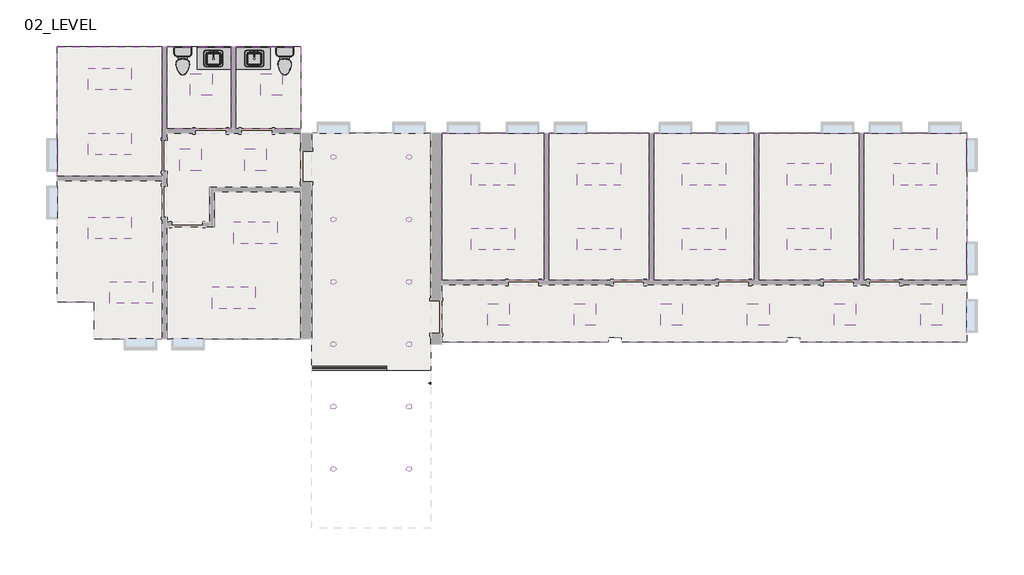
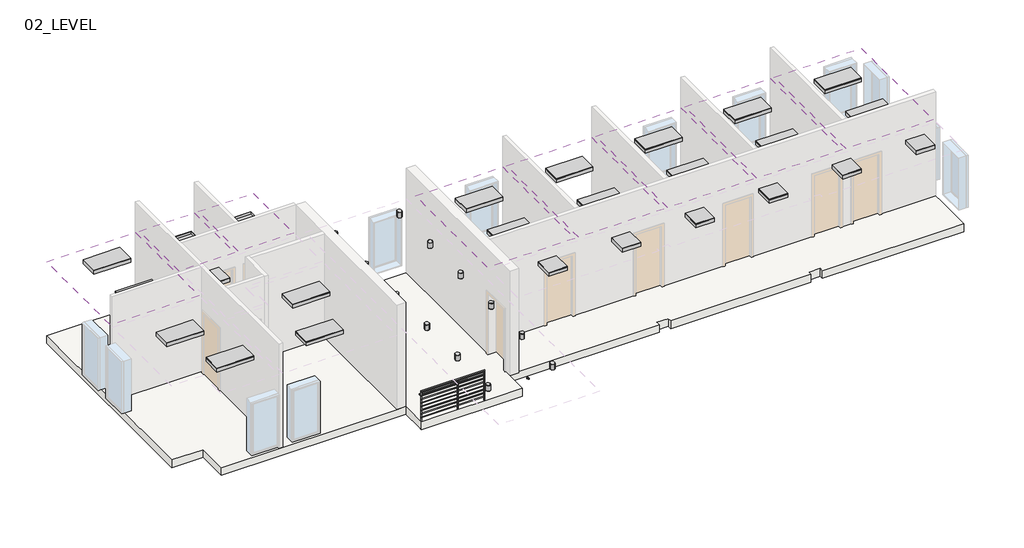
# One storey, part 2 of 2: 38 light fixtures, 8 coverings, 4 flow terminals, 2 furniture elements, 1 proxy, 1 railing, 1 slab.
"""IFC4 building model written with IfcOpenShell, lengths in millimetres."""

from ifc_helpers import new_model, si_unit, point, frame, frame_2d, origin, place, context, project, spatial, polyline, circle_curve, trimmed, segment, composite_curve, outline, extrude, faceted_brep, transform, mapped, element, save
from components import support_metal_circular_support_metal_circular_ae412147, flow_terminal_62a433f7, flow_terminal_4d0de4d3, toilet_domestic_3d_toilet_domestic_3d_f7549cf7, toilet_domestic_3d_toilet_domestic_3d_183bbd19, furniture_3190ce65, furniture_ed97e21d, ceiling_light_linear_box_2_x2_2_lamp_120v_60b3670b, light_fixture_e8692caf, troffer_light_2x2_parabolic_2_x2_2_lamp_120v_42650cf3, troffer_light_2x4_parabolic_2_x4_2_lamp_120v_ca384779

model = new_model("IFC4")

# Units and contexts
model_context = context("Model", 3, world=origin())
ifc_project = project(units=[si_unit("LENGTHUNIT", "METRE", prefix="MILLI")], contexts=[model_context])

# Site, building, storey
site = spatial("IfcSite", under=ifc_project)
building = spatial("IfcBuilding", under=site)
storey = spatial("IfcBuildingStorey", under=building, Name="02_LEVEL", Elevation=3657.6)

# Proxy
placement = place(None, origin())
support_metal_circular_support_metal_circular_shape = support_metal_circular_support_metal_circular_ae412147(model_context)
element("IfcBuildingElementProxy", 1, Name="Support - Metal - Circular : Support - Metal - Circular", ObjectType="Support - Metal - Circular : Support - Metal - Circular", at=placement, inside=storey, context=model_context, shape_type="MappedRepresentation", body=[
    mapped(support_metal_circular_support_metal_circular_shape, transform((31576.2316981, 24917.3669189, 4308.0093215), x_axis=(0.0, -1.0, 0.0), y_axis=(1.0, 0.0, 0.0), z_axis=(0.0, 0.0, 1.0))),
])

# Coverings
element("IfcCovering", 2, ObjectType="2' x 2' ACT System", at=placement, inside=storey, context=model_context, shape_type="SweptSolid", body=[
    extrude(outline(polyline([(21117.7816981, 34398.3332157), (24064.1816981, 34398.3332157), (24064.1816981, 30740.7332157), (21117.7816981, 30740.7332157), (21117.7816981, 34398.3332157)]), holes=[polyline([(23200.5816981, 33788.7332157), (21981.3816981, 33788.7332157), (21981.3816981, 33179.1332157), (23200.5816981, 33179.1332157), (23200.5816981, 33788.7332157)]), polyline([(23200.5816981, 31959.9332157), (21981.3816981, 31959.9332157), (21981.3816981, 31350.3332157), (23200.5816981, 31350.3332157), (23200.5816981, 31959.9332157)])]), frame((0.0, 0.0, 6248.4), z_axis=(0.0, 0.0, 1.0), x_axis=(1.0, 0.0, 0.0)), (0.0, 0.0, 1.0), 57.15),
])
element("IfcCovering", 3, ObjectType="2' x 2' ACT System", at=placement, inside=storey, context=model_context, shape_type="SweptSolid", body=[
    extrude(outline(polyline([(31938.1816981, 31959.9332157), (34831.2416981, 31959.9332157), (34831.2416981, 27819.7332157), (31938.1816981, 27819.7332157), (31938.1816981, 31959.9332157)]), holes=[polyline([(33994.3116981, 31109.0332157), (32775.1116981, 31109.0332157), (32775.1116981, 30499.4332157), (33994.3116981, 30499.4332157), (33994.3116981, 31109.0332157)]), polyline([(33994.3116981, 29280.2332157), (32775.1116981, 29280.2332157), (32775.1116981, 28670.6332157), (33994.3116981, 28670.6332157), (33994.3116981, 29280.2332157)])]), frame((0.0, 0.0, 6248.4), z_axis=(0.0, 0.0, 1.0), x_axis=(1.0, 0.0, 0.0)), (0.0, 0.0, 1.0), 57.15),
])
element("IfcCovering", 4, ObjectType="2' x 2' ACT System", at=placement, inside=storey, context=model_context, shape_type="SweptSolid", body=[
    extrude(outline(polyline([(34958.2416981, 27819.7332157), (34958.2416981, 31959.9332157), (37787.8016981, 31959.9332157), (37787.8016981, 27819.7332157), (34958.2416981, 27819.7332157)]), holes=[polyline([(36982.6216981, 31109.0332157), (35763.4216981, 31109.0332157), (35763.4216981, 30499.4332157), (36982.6216981, 30499.4332157), (36982.6216981, 31109.0332157)]), polyline([(36982.6216981, 29280.2332157), (35763.4216981, 29280.2332157), (35763.4216981, 28670.6332157), (36982.6216981, 28670.6332157), (36982.6216981, 29280.2332157)])]), frame((0.0, 0.0, 6248.4), z_axis=(0.0, 0.0, 1.0), x_axis=(1.0, 0.0, 0.0)), (0.0, 0.0, 1.0), 57.15),
])
element("IfcCovering", 5, ObjectType="2' x 2' ACT System", at=placement, inside=storey, context=model_context, shape_type="SweptSolid", body=[
    extrude(outline(polyline([(37914.8016981, 27819.7332157), (37914.8016981, 31959.9332157), (40744.3616981, 31959.9332157), (40744.3616981, 27819.7332157), (37914.8016981, 27819.7332157)]), holes=[polyline([(39939.1816981, 31109.0332157), (38719.9816981, 31109.0332157), (38719.9816981, 30499.4332157), (39939.1816981, 30499.4332157), (39939.1816981, 31109.0332157)]), polyline([(39939.1816981, 29280.2332157), (38719.9816981, 29280.2332157), (38719.9816981, 28670.6332157), (39939.1816981, 28670.6332157), (39939.1816981, 29280.2332157)])]), frame((0.0, 0.0, 6248.4), z_axis=(0.0, 0.0, 1.0), x_axis=(1.0, 0.0, 0.0)), (0.0, 0.0, 1.0), 57.15),
])
element("IfcCovering", 6, ObjectType="2' x 2' ACT System", at=placement, inside=storey, context=model_context, shape_type="SweptSolid", body=[
    extrude(outline(polyline([(40871.3616981, 27819.7332157), (40871.3616981, 31959.9332157), (43700.9216981, 31959.9332157), (43700.9216981, 27819.7332157), (40871.3616981, 27819.7332157)]), holes=[polyline([(42895.7416981, 31109.0332157), (41676.5416981, 31109.0332157), (41676.5416981, 30499.4332157), (42895.7416981, 30499.4332157), (42895.7416981, 31109.0332157)]), polyline([(42895.7416981, 29280.2332157), (41676.5416981, 29280.2332157), (41676.5416981, 28670.6332157), (42895.7416981, 28670.6332157), (42895.7416981, 29280.2332157)])]), frame((0.0, 0.0, 6248.4), z_axis=(0.0, 0.0, 1.0), x_axis=(1.0, 0.0, 0.0)), (0.0, 0.0, 1.0), 57.15),
])
element("IfcCovering", 7, ObjectType="2' x 2' ACT System", at=placement, inside=storey, context=model_context, shape_type="SweptSolid", body=[
    extrude(outline(polyline([(46720.9816981, 31959.9332157), (46720.9816981, 27819.7332157), (43827.9216981, 27819.7332157), (43827.9216981, 31959.9332157), (46720.9816981, 31959.9332157)]), holes=[polyline([(45884.0516981, 31109.0332157), (44664.8516981, 31109.0332157), (44664.8516981, 30499.4332157), (45884.0516981, 30499.4332157), (45884.0516981, 31109.0332157)]), polyline([(45884.0516981, 29280.2332157), (44664.8516981, 29280.2332157), (44664.8516981, 28670.6332157), (45884.0516981, 28670.6332157), (45884.0516981, 29280.2332157)])]), frame((0.0, 0.0, 6248.4), z_axis=(0.0, 0.0, 1.0), x_axis=(1.0, 0.0, 0.0)), (0.0, 0.0, 1.0), 57.15),
])
element("IfcCovering", 8, ObjectType="GWB on Mtl. Stud", at=placement, inside=storey, context=model_context, shape_type="SweptSolid", body=[
    extrude(outline(polyline([(24191.1816981, 32086.9332157), (24191.1816981, 34398.3332157), (26019.9816981, 34398.3332157), (26019.9816981, 32086.9332157), (24191.1816981, 32086.9332157)])), frame((0.0, 0.0, 6248.4), z_axis=(0.0, 0.0, 1.0), x_axis=(1.0, 0.0, 0.0)), (0.0, 0.0, 1.0), 107.95),
])
element("IfcCovering", 9, ObjectType="GWB on Mtl. Stud", at=placement, inside=storey, context=model_context, shape_type="SweptSolid", body=[
    extrude(outline(polyline([(26146.9816981, 32086.9332157), (26146.9816981, 34398.3332157), (27975.7816981, 34398.3332157), (27975.7816981, 32086.9332157), (26146.9816981, 32086.9332157)])), frame((0.0, 0.0, 6248.4), z_axis=(0.0, 0.0, 1.0), x_axis=(1.0, 0.0, 0.0)), (0.0, 0.0, 1.0), 107.95),
])

# Flow terminals
flow_terminal_shape = flow_terminal_62a433f7(model_context)
element("IfcFlowTerminal", 10, ObjectType="Sink Vanity-Square : 20\" x 18\"", at=placement, inside=storey, context=model_context, shape_type="MappedRepresentation", body=[
    mapped(flow_terminal_shape, transform((26644.9361207, 34103.8878146, 3657.6), x_axis=(1.0, 0.0, 0.0), y_axis=(0.0, 1.0, 0.0), z_axis=(0.0, 0.0, 1.0))),
])
flow_terminal_2_shape = flow_terminal_4d0de4d3(model_context)
element("IfcFlowTerminal", 11, ObjectType="Sink Vanity-Square : 20\" x 18\"", at=placement, inside=storey, context=model_context, shape_type="MappedRepresentation", body=[
    mapped(flow_terminal_2_shape, transform((25527.6709386, 34103.8878146, 3657.6), x_axis=(-1.0, 0.0, 0.0), y_axis=(0.0, -1.0, 0.0), z_axis=(0.0, 0.0, 1.0))),
])
toilet_domestic_3d_toilet_domestic_3d_shape = toilet_domestic_3d_toilet_domestic_3d_f7549cf7(model_context)
toilet_domestic_3d_toilet_domestic_3d_2_shape = toilet_domestic_3d_toilet_domestic_3d_183bbd19(model_context)
element("IfcFlowTerminal", 12, ObjectType="Toilet-Domestic-3D : Toilet-Domestic-3D", at=placement, inside=storey, context=model_context, shape_type="MappedRepresentation", body=[
    mapped(toilet_domestic_3d_toilet_domestic_3d_shape, transform((24648.3816981, 33903.6371883, 3657.6), x_axis=(1.0, 0.0, 0.0), y_axis=(0.0, 1.0, 0.0), z_axis=(0.0, 0.0, 1.0))),
    mapped(toilet_domestic_3d_toilet_domestic_3d_2_shape, transform((24648.3816981, 33903.6371883, 3657.6), x_axis=(1.0, 0.0, 0.0), y_axis=(0.0, 1.0, 0.0), z_axis=(0.0, 0.0, 1.0))),
])
element("IfcFlowTerminal", 13, ObjectType="Toilet-Domestic-3D : Toilet-Domestic-3D", at=placement, inside=storey, context=model_context, shape_type="MappedRepresentation", body=[
    mapped(toilet_domestic_3d_toilet_domestic_3d_shape, transform((27518.5816981, 33903.6371883, 3657.6), x_axis=(1.0, 0.0, 0.0), y_axis=(0.0, 1.0, 0.0), z_axis=(0.0, 0.0, 1.0))),
    mapped(toilet_domestic_3d_toilet_domestic_3d_2_shape, transform((27518.5816981, 33903.6371883, 3657.6), x_axis=(1.0, 0.0, 0.0), y_axis=(0.0, 1.0, 0.0), z_axis=(0.0, 0.0, 1.0))),
])

# Furniture
furniture_shape = furniture_3190ce65(model_context)
element("IfcFurniture", 14, ObjectType="Vanity Counter Top w Square Sink Hole : 24\" Depth", at=placement, inside=storey, context=model_context, shape_type="MappedRepresentation", body=[
    mapped(furniture_shape, transform((27415.7064932, 34398.3332157, 3657.6), x_axis=(1.0, 0.0, 0.0), y_axis=(0.0, 1.0, 0.0), z_axis=(0.0, 0.0, 1.0))),
])
furniture_2_shape = furniture_ed97e21d(model_context)
element("IfcFurniture", 15, ObjectType="Vanity Counter Top w Square Sink Hole : 24\" Depth", at=placement, inside=storey, context=model_context, shape_type="MappedRepresentation", body=[
    mapped(furniture_2_shape, transform((24751.256903, 34398.3332157, 3657.6), x_axis=(-1.0, 0.0, 0.0), y_axis=(0.0, -1.0, 0.0), z_axis=(0.0, 0.0, 1.0))),
])

# Light fixtures
ceiling_light_linear_box_2_x2_2_lamp_120v_shape = ceiling_light_linear_box_2_x2_2_lamp_120v_60b3670b(model_context)
element("IfcLightFixture", 16, ObjectType="Ceiling Light - Linear Box : 2'x2'(2 Lamp) - 120V", at=placement, inside=storey, context=model_context, shape_type="MappedRepresentation", body=[
    mapped(ceiling_light_linear_box_2_x2_2_lamp_120v_shape, transform((25169.0816981, 33331.5332157, 3810.0), x_axis=(1.0, 0.0, 0.0), y_axis=(0.0, 1.0, 0.0), z_axis=(0.0, 0.0, 1.0))),
])
element("IfcLightFixture", 17, ObjectType="Ceiling Light - Linear Box : 2'x2'(2 Lamp) - 120V", at=placement, inside=storey, context=model_context, shape_type="MappedRepresentation", body=[
    mapped(ceiling_light_linear_box_2_x2_2_lamp_120v_shape, transform((27150.2816981, 33331.5332157, 3810.0), x_axis=(1.0, 0.0, 0.0), y_axis=(0.0, 1.0, 0.0), z_axis=(0.0, 0.0, 1.0))),
])
light_fixture_shape = light_fixture_e8692caf(model_context)
element("IfcLightFixture", 18, ObjectType="Downlight - Recessed Can : 6\" Incandescent - 120V", at=placement, inside=storey, context=model_context, shape_type="MappedRepresentation", body=[
    mapped(light_fixture_shape, transform((28890.1816981, 31286.8332157, 3810.0), x_axis=(1.0, 0.0, 0.0), y_axis=(0.0, 1.0, 0.0), z_axis=(0.0, 0.0, 1.0))),
])
element("IfcLightFixture", 19, ObjectType="Downlight - Recessed Can : 6\" Incandescent - 120V", at=placement, inside=storey, context=model_context, shape_type="MappedRepresentation", body=[
    mapped(light_fixture_shape, transform((28890.1816981, 26016.3332157, 3810.0), x_axis=(1.0, 0.0, 0.0), y_axis=(0.0, 1.0, 0.0), z_axis=(0.0, 0.0, 1.0))),
])
element("IfcLightFixture", 20, ObjectType="Downlight - Recessed Can : 6\" Incandescent - 120V", at=placement, inside=storey, context=model_context, shape_type="MappedRepresentation", body=[
    mapped(light_fixture_shape, transform((28890.1816981, 29529.9998824, 3810.0), x_axis=(1.0, 0.0, 0.0), y_axis=(0.0, 1.0, 0.0), z_axis=(0.0, 0.0, 1.0))),
])
element("IfcLightFixture", 21, ObjectType="Downlight - Recessed Can : 6\" Incandescent - 120V", at=placement, inside=storey, context=model_context, shape_type="MappedRepresentation", body=[
    mapped(light_fixture_shape, transform((28890.1816981, 27773.166549, 3810.0), x_axis=(1.0, 0.0, 0.0), y_axis=(0.0, 1.0, 0.0), z_axis=(0.0, 0.0, 1.0))),
])
element("IfcLightFixture", 22, ObjectType="Downlight - Recessed Can : 6\" Incandescent - 120V", at=placement, inside=storey, context=model_context, shape_type="MappedRepresentation", body=[
    mapped(light_fixture_shape, transform((28890.1816981, 24259.4998824, 3810.0), x_axis=(1.0, 0.0, 0.0), y_axis=(0.0, 1.0, 0.0), z_axis=(0.0, 0.0, 1.0))),
])
element("IfcLightFixture", 23, ObjectType="Downlight - Recessed Can : 6\" Incandescent - 120V", at=placement, inside=storey, context=model_context, shape_type="MappedRepresentation", body=[
    mapped(light_fixture_shape, transform((28890.1816981, 22502.666549, 3810.0), x_axis=(1.0, 0.0, 0.0), y_axis=(0.0, 1.0, 0.0), z_axis=(0.0, 0.0, 1.0))),
])
element("IfcLightFixture", 24, ObjectType="Downlight - Recessed Can : 6\" Incandescent - 120V", at=placement, inside=storey, context=model_context, shape_type="MappedRepresentation", body=[
    mapped(light_fixture_shape, transform((31023.7816981, 31286.8332157, 3810.0), x_axis=(-1.0, 0.0, 0.0), y_axis=(0.0, -1.0, 0.0), z_axis=(0.0, 0.0, 1.0))),
])
element("IfcLightFixture", 25, ObjectType="Downlight - Recessed Can : 6\" Incandescent - 120V", at=placement, inside=storey, context=model_context, shape_type="MappedRepresentation", body=[
    mapped(light_fixture_shape, transform((31023.7816981, 26016.3332157, 3810.0), x_axis=(-1.0, 0.0, 0.0), y_axis=(0.0, -1.0, 0.0), z_axis=(0.0, 0.0, 1.0))),
])
element("IfcLightFixture", 26, ObjectType="Downlight - Recessed Can : 6\" Incandescent - 120V", at=placement, inside=storey, context=model_context, shape_type="MappedRepresentation", body=[
    mapped(light_fixture_shape, transform((31023.7816981, 29529.9998824, 3810.0), x_axis=(-1.0, 0.0, 0.0), y_axis=(0.0, -1.0, 0.0), z_axis=(0.0, 0.0, 1.0))),
])
element("IfcLightFixture", 27, ObjectType="Downlight - Recessed Can : 6\" Incandescent - 120V", at=placement, inside=storey, context=model_context, shape_type="MappedRepresentation", body=[
    mapped(light_fixture_shape, transform((31023.7816981, 27773.166549, 3810.0), x_axis=(-1.0, 0.0, 0.0), y_axis=(0.0, -1.0, 0.0), z_axis=(0.0, 0.0, 1.0))),
])
element("IfcLightFixture", 28, ObjectType="Downlight - Recessed Can : 6\" Incandescent - 120V", at=placement, inside=storey, context=model_context, shape_type="MappedRepresentation", body=[
    mapped(light_fixture_shape, transform((31023.7816981, 24259.4998824, 3810.0), x_axis=(-1.0, 0.0, 0.0), y_axis=(0.0, -1.0, 0.0), z_axis=(0.0, 0.0, 1.0))),
])
element("IfcLightFixture", 29, ObjectType="Downlight - Recessed Can : 6\" Incandescent - 120V", at=placement, inside=storey, context=model_context, shape_type="MappedRepresentation", body=[
    mapped(light_fixture_shape, transform((31023.7816981, 22502.666549, 3810.0), x_axis=(-1.0, 0.0, 0.0), y_axis=(0.0, -1.0, 0.0), z_axis=(0.0, 0.0, 1.0))),
])
troffer_light_2x2_parabolic_2_x2_2_lamp_120v_shape = troffer_light_2x2_parabolic_2_x2_2_lamp_120v_42650cf3(model_context)
element("IfcLightFixture", 30, ObjectType="Troffer Light - 2x2 Parabolic : 2'x2'(2 Lamp) - 120V", at=placement, inside=storey, context=model_context, shape_type="MappedRepresentation", body=[
    mapped(troffer_light_2x2_parabolic_2_x2_2_lamp_120v_shape, transform((33557.0851997, 26913.9991478, 3810.0), x_axis=(1.0, 0.0, 0.0), y_axis=(0.0, 1.0, 0.0), z_axis=(0.0, 0.0, 1.0))),
])
element("IfcLightFixture", 31, ObjectType="Troffer Light - 2x2 Parabolic : 2'x2'(2 Lamp) - 120V", at=placement, inside=storey, context=model_context, shape_type="MappedRepresentation", body=[
    mapped(troffer_light_2x2_parabolic_2_x2_2_lamp_120v_shape, transform((35995.4851997, 26913.9991478, 3810.0), x_axis=(1.0, 0.0, 0.0), y_axis=(0.0, 1.0, 0.0), z_axis=(0.0, 0.0, 1.0))),
])
element("IfcLightFixture", 32, ObjectType="Troffer Light - 2x2 Parabolic : 2'x2'(2 Lamp) - 120V", at=placement, inside=storey, context=model_context, shape_type="MappedRepresentation", body=[
    mapped(troffer_light_2x2_parabolic_2_x2_2_lamp_120v_shape, transform((38433.8851997, 26913.9991478, 3810.0), x_axis=(1.0, 0.0, 0.0), y_axis=(0.0, 1.0, 0.0), z_axis=(0.0, 0.0, 1.0))),
])
element("IfcLightFixture", 33, ObjectType="Troffer Light - 2x2 Parabolic : 2'x2'(2 Lamp) - 120V", at=placement, inside=storey, context=model_context, shape_type="MappedRepresentation", body=[
    mapped(troffer_light_2x2_parabolic_2_x2_2_lamp_120v_shape, transform((40872.2851997, 26913.9991478, 3810.0), x_axis=(1.0, 0.0, 0.0), y_axis=(0.0, 1.0, 0.0), z_axis=(0.0, 0.0, 1.0))),
])
element("IfcLightFixture", 34, ObjectType="Troffer Light - 2x2 Parabolic : 2'x2'(2 Lamp) - 120V", at=placement, inside=storey, context=model_context, shape_type="MappedRepresentation", body=[
    mapped(troffer_light_2x2_parabolic_2_x2_2_lamp_120v_shape, transform((43310.6851997, 26913.9991478, 3810.0), x_axis=(1.0, 0.0, 0.0), y_axis=(0.0, 1.0, 0.0), z_axis=(0.0, 0.0, 1.0))),
])
element("IfcLightFixture", 35, ObjectType="Troffer Light - 2x2 Parabolic : 2'x2'(2 Lamp) - 120V", at=placement, inside=storey, context=model_context, shape_type="MappedRepresentation", body=[
    mapped(troffer_light_2x2_parabolic_2_x2_2_lamp_120v_shape, transform((45749.0851997, 26913.9991478, 3810.0), x_axis=(1.0, 0.0, 0.0), y_axis=(0.0, 1.0, 0.0), z_axis=(0.0, 0.0, 1.0))),
])
element("IfcLightFixture", 36, ObjectType="Troffer Light - 2x2 Parabolic : 2'x2'(2 Lamp) - 120V", at=placement, inside=storey, context=model_context, shape_type="MappedRepresentation", body=[
    mapped(troffer_light_2x2_parabolic_2_x2_2_lamp_120v_shape, transform((26711.7851997, 31270.0991478, 3810.0), x_axis=(1.0, 0.0, 0.0), y_axis=(0.0, 1.0, 0.0), z_axis=(0.0, 0.0, 1.0))),
])
element("IfcLightFixture", 37, ObjectType="Troffer Light - 2x2 Parabolic : 2'x2'(2 Lamp) - 120V", at=placement, inside=storey, context=model_context, shape_type="MappedRepresentation", body=[
    mapped(troffer_light_2x2_parabolic_2_x2_2_lamp_120v_shape, transform((24882.9851997, 31270.0991478, 3810.0), x_axis=(1.0, 0.0, 0.0), y_axis=(0.0, 1.0, 0.0), z_axis=(0.0, 0.0, 1.0))),
])
troffer_light_2x4_parabolic_2_x4_2_lamp_120v_shape = troffer_light_2x4_parabolic_2_x4_2_lamp_120v_ca384779(model_context)
element("IfcLightFixture", 38, ObjectType="Troffer Light - 2x4 Parabolic : 2'x4'(2 Lamp) - 120V", at=placement, inside=storey, context=model_context, shape_type="MappedRepresentation", body=[
    mapped(troffer_light_2x4_parabolic_2_x4_2_lamp_120v_shape, transform((33403.4151997, 30863.6991478, 3810.0), x_axis=(1.0, 0.0, 0.0), y_axis=(0.0, 1.0, 0.0), z_axis=(0.0, 0.0, 1.0))),
])
element("IfcLightFixture", 39, ObjectType="Troffer Light - 2x4 Parabolic : 2'x4'(2 Lamp) - 120V", at=placement, inside=storey, context=model_context, shape_type="MappedRepresentation", body=[
    mapped(troffer_light_2x4_parabolic_2_x4_2_lamp_120v_shape, transform((33403.4151997, 29034.8991478, 3810.0), x_axis=(1.0, 0.0, 0.0), y_axis=(0.0, 1.0, 0.0), z_axis=(0.0, 0.0, 1.0))),
])
element("IfcLightFixture", 40, ObjectType="Troffer Light - 2x4 Parabolic : 2'x4'(2 Lamp) - 120V", at=placement, inside=storey, context=model_context, shape_type="MappedRepresentation", body=[
    mapped(troffer_light_2x4_parabolic_2_x4_2_lamp_120v_shape, transform((36391.7251997, 30863.6991478, 3810.0), x_axis=(1.0, 0.0, 0.0), y_axis=(0.0, 1.0, 0.0), z_axis=(0.0, 0.0, 1.0))),
])
element("IfcLightFixture", 41, ObjectType="Troffer Light - 2x4 Parabolic : 2'x4'(2 Lamp) - 120V", at=placement, inside=storey, context=model_context, shape_type="MappedRepresentation", body=[
    mapped(troffer_light_2x4_parabolic_2_x4_2_lamp_120v_shape, transform((36391.7251997, 29034.8991478, 3810.0), x_axis=(1.0, 0.0, 0.0), y_axis=(0.0, 1.0, 0.0), z_axis=(0.0, 0.0, 1.0))),
])
element("IfcLightFixture", 42, ObjectType="Troffer Light - 2x4 Parabolic : 2'x4'(2 Lamp) - 120V", at=placement, inside=storey, context=model_context, shape_type="MappedRepresentation", body=[
    mapped(troffer_light_2x4_parabolic_2_x4_2_lamp_120v_shape, transform((39348.2851997, 30863.6991478, 3810.0), x_axis=(1.0, 0.0, 0.0), y_axis=(0.0, 1.0, 0.0), z_axis=(0.0, 0.0, 1.0))),
])
element("IfcLightFixture", 43, ObjectType="Troffer Light - 2x4 Parabolic : 2'x4'(2 Lamp) - 120V", at=placement, inside=storey, context=model_context, shape_type="MappedRepresentation", body=[
    mapped(troffer_light_2x4_parabolic_2_x4_2_lamp_120v_shape, transform((39348.2851997, 29034.8991478, 3810.0), x_axis=(1.0, 0.0, 0.0), y_axis=(0.0, 1.0, 0.0), z_axis=(0.0, 0.0, 1.0))),
])
element("IfcLightFixture", 44, ObjectType="Troffer Light - 2x4 Parabolic : 2'x4'(2 Lamp) - 120V", at=placement, inside=storey, context=model_context, shape_type="MappedRepresentation", body=[
    mapped(troffer_light_2x4_parabolic_2_x4_2_lamp_120v_shape, transform((42304.8451997, 30863.6991478, 3810.0), x_axis=(1.0, 0.0, 0.0), y_axis=(0.0, 1.0, 0.0), z_axis=(0.0, 0.0, 1.0))),
])
element("IfcLightFixture", 45, ObjectType="Troffer Light - 2x4 Parabolic : 2'x4'(2 Lamp) - 120V", at=placement, inside=storey, context=model_context, shape_type="MappedRepresentation", body=[
    mapped(troffer_light_2x4_parabolic_2_x4_2_lamp_120v_shape, transform((42304.8451997, 29034.8991478, 3810.0), x_axis=(1.0, 0.0, 0.0), y_axis=(0.0, 1.0, 0.0), z_axis=(0.0, 0.0, 1.0))),
])
element("IfcLightFixture", 46, ObjectType="Troffer Light - 2x4 Parabolic : 2'x4'(2 Lamp) - 120V", at=placement, inside=storey, context=model_context, shape_type="MappedRepresentation", body=[
    mapped(troffer_light_2x4_parabolic_2_x4_2_lamp_120v_shape, transform((45293.1551997, 30863.6991478, 3810.0), x_axis=(1.0, 0.0, 0.0), y_axis=(0.0, 1.0, 0.0), z_axis=(0.0, 0.0, 1.0))),
])
element("IfcLightFixture", 47, ObjectType="Troffer Light - 2x4 Parabolic : 2'x4'(2 Lamp) - 120V", at=placement, inside=storey, context=model_context, shape_type="MappedRepresentation", body=[
    mapped(troffer_light_2x4_parabolic_2_x4_2_lamp_120v_shape, transform((45293.1551997, 29034.8991478, 3810.0), x_axis=(1.0, 0.0, 0.0), y_axis=(0.0, 1.0, 0.0), z_axis=(0.0, 0.0, 1.0))),
])
element("IfcLightFixture", 48, ObjectType="Troffer Light - 2x4 Parabolic : 2'x4'(2 Lamp) - 120V", at=placement, inside=storey, context=model_context, shape_type="MappedRepresentation", body=[
    mapped(troffer_light_2x4_parabolic_2_x4_2_lamp_120v_shape, transform((22609.6851997, 33543.3991478, 3810.0), x_axis=(1.0, 0.0, 0.0), y_axis=(0.0, 1.0, 0.0), z_axis=(0.0, 0.0, 1.0))),
])
element("IfcLightFixture", 49, ObjectType="Troffer Light - 2x4 Parabolic : 2'x4'(2 Lamp) - 120V", at=placement, inside=storey, context=model_context, shape_type="MappedRepresentation", body=[
    mapped(troffer_light_2x4_parabolic_2_x4_2_lamp_120v_shape, transform((22609.6851997, 31714.5991478, 3810.0), x_axis=(1.0, 0.0, 0.0), y_axis=(0.0, 1.0, 0.0), z_axis=(0.0, 0.0, 1.0))),
])
element("IfcLightFixture", 50, ObjectType="Troffer Light - 2x4 Parabolic : 2'x4'(2 Lamp) - 120V", at=placement, inside=storey, context=model_context, shape_type="MappedRepresentation", body=[
    mapped(troffer_light_2x4_parabolic_2_x4_2_lamp_120v_shape, transform((22609.6851997, 29352.3991478, 3810.0), x_axis=(1.0, 0.0, 0.0), y_axis=(0.0, 1.0, 0.0), z_axis=(0.0, 0.0, 1.0))),
])
element("IfcLightFixture", 51, ObjectType="Troffer Light - 2x4 Parabolic : 2'x4'(2 Lamp) - 120V", at=placement, inside=storey, context=model_context, shape_type="MappedRepresentation", body=[
    mapped(troffer_light_2x4_parabolic_2_x4_2_lamp_120v_shape, transform((26711.7851997, 29212.6991478, 3810.0), x_axis=(1.0, 0.0, 0.0), y_axis=(0.0, 1.0, 0.0), z_axis=(0.0, 0.0, 1.0))),
])
element("IfcLightFixture", 52, ObjectType="Troffer Light - 2x4 Parabolic : 2'x4'(2 Lamp) - 120V", at=placement, inside=storey, context=model_context, shape_type="MappedRepresentation", body=[
    mapped(troffer_light_2x4_parabolic_2_x4_2_lamp_120v_shape, transform((26102.1851997, 27383.8991478, 3810.0), x_axis=(1.0, 0.0, 0.0), y_axis=(0.0, 1.0, 0.0), z_axis=(0.0, 0.0, 1.0))),
])
element("IfcLightFixture", 53, ObjectType="Troffer Light - 2x4 Parabolic : 2'x4'(2 Lamp) - 120V", at=placement, inside=storey, context=model_context, shape_type="MappedRepresentation", body=[
    mapped(troffer_light_2x4_parabolic_2_x4_2_lamp_120v_shape, transform((23219.2851997, 27536.2991478, 3810.0), x_axis=(1.0, 0.0, 0.0), y_axis=(0.0, 1.0, 0.0), z_axis=(0.0, 0.0, 1.0))),
])

# Railing
element("IfcRailing", 54, ObjectType="Guardrail - Pipe", at=placement, inside=storey, context=model_context, shape_type="SweptSolid", body=[
    extrude(outline(composite_curve([segment(trimmed(circle_curve(frame_2d((25381.3332157, 4552.95)), 19.05), [point((25362.2832157, 4552.95))], [point((25400.3832157, 4552.95))], False, "CARTESIAN"), True, "CONTINUOUS"), segment(trimmed(circle_curve(frame_2d((25381.3332157, 4552.95)), 19.05), [point((25400.3832157, 4552.95))], [point((25362.2832157, 4552.95))], False, "CARTESIAN"), True, "CONTINUOUS")], self_intersect=False)), frame((28280.5816981, 0.0, 0.0), z_axis=(1.0, 0.0, 0.0), x_axis=(0.0, 1.0, 0.0)), (0.0, 0.0, 1.0), 2108.2),
    extrude(outline(composite_curve([segment(trimmed(circle_curve(frame_2d((25305.1332157, 4705.35)), 19.05), [point((25286.0832157, 4705.35))], [point((25324.1832157, 4705.35))], False, "CARTESIAN"), True, "CONTINUOUS"), segment(trimmed(circle_curve(frame_2d((25305.1332157, 4705.35)), 19.05), [point((25324.1832157, 4705.35))], [point((25286.0832157, 4705.35))], False, "CARTESIAN"), True, "CONTINUOUS")], self_intersect=False)), frame((28280.5816981, 0.0, 0.0), z_axis=(1.0, 0.0, 0.0), x_axis=(0.0, 1.0, 0.0)), (0.0, 0.0, 1.0), 2108.2),
    extrude(outline(composite_curve([segment(trimmed(circle_curve(frame_2d((25305.1332157, 4559.3)), 12.7), [point((25317.8332157, 4559.3))], [point((25292.4332157, 4559.3))], False, "CARTESIAN"), True, "CONTINUOUS"), segment(trimmed(circle_curve(frame_2d((25305.1332157, 4559.3)), 12.7), [point((25292.4332157, 4559.3))], [point((25317.8332157, 4559.3))], False, "CARTESIAN"), True, "CONTINUOUS")], self_intersect=False)), frame((28280.5816981, 0.0, 0.0), z_axis=(1.0, 0.0, 0.0), x_axis=(0.0, 1.0, 0.0)), (0.0, 0.0, 1.0), 2108.2),
    extrude(outline(composite_curve([segment(trimmed(circle_curve(frame_2d((25305.1332157, 4432.3)), 12.7), [point((25317.8332157, 4432.3))], [point((25292.4332157, 4432.3))], False, "CARTESIAN"), True, "CONTINUOUS"), segment(trimmed(circle_curve(frame_2d((25305.1332157, 4432.3)), 12.7), [point((25292.4332157, 4432.3))], [point((25317.8332157, 4432.3))], False, "CARTESIAN"), True, "CONTINUOUS")], self_intersect=False)), frame((28280.5816981, 0.0, 0.0), z_axis=(1.0, 0.0, 0.0), x_axis=(0.0, 1.0, 0.0)), (0.0, 0.0, 1.0), 2108.2),
    extrude(outline(composite_curve([segment(trimmed(circle_curve(frame_2d((25305.1332157, 4305.3)), 12.7), [point((25317.8332157, 4305.3))], [point((25292.4332157, 4305.3))], False, "CARTESIAN"), True, "CONTINUOUS"), segment(trimmed(circle_curve(frame_2d((25305.1332157, 4305.3)), 12.7), [point((25292.4332157, 4305.3))], [point((25317.8332157, 4305.3))], False, "CARTESIAN"), True, "CONTINUOUS")], self_intersect=False)), frame((28280.5816981, 0.0, 0.0), z_axis=(1.0, 0.0, 0.0), x_axis=(0.0, 1.0, 0.0)), (0.0, 0.0, 1.0), 2108.2),
    extrude(outline(composite_curve([segment(trimmed(circle_curve(frame_2d((25305.1332157, 4178.3)), 12.7), [point((25317.8332157, 4178.3))], [point((25292.4332157, 4178.3))], False, "CARTESIAN"), True, "CONTINUOUS"), segment(trimmed(circle_curve(frame_2d((25305.1332157, 4178.3)), 12.7), [point((25292.4332157, 4178.3))], [point((25317.8332157, 4178.3))], False, "CARTESIAN"), True, "CONTINUOUS")], self_intersect=False)), frame((28280.5816981, 0.0, 0.0), z_axis=(1.0, 0.0, 0.0), x_axis=(0.0, 1.0, 0.0)), (0.0, 0.0, 1.0), 2108.2),
    extrude(outline(composite_curve([segment(trimmed(circle_curve(frame_2d((25305.1332157, 4051.3)), 12.7), [point((25317.8332157, 4051.3))], [point((25292.4332157, 4051.3))], False, "CARTESIAN"), True, "CONTINUOUS"), segment(trimmed(circle_curve(frame_2d((25305.1332157, 4051.3)), 12.7), [point((25292.4332157, 4051.3))], [point((25317.8332157, 4051.3))], False, "CARTESIAN"), True, "CONTINUOUS")], self_intersect=False)), frame((28280.5816981, 0.0, 0.0), z_axis=(1.0, 0.0, 0.0), x_axis=(0.0, 1.0, 0.0)), (0.0, 0.0, 1.0), 2108.2),
    extrude(outline(composite_curve([segment(trimmed(circle_curve(frame_2d((25305.1332157, 3924.3)), 12.7), [point((25317.8332157, 3924.3))], [point((25292.4332157, 3924.3))], False, "CARTESIAN"), True, "CONTINUOUS"), segment(trimmed(circle_curve(frame_2d((25305.1332157, 3924.3)), 12.7), [point((25292.4332157, 3924.3))], [point((25317.8332157, 3924.3))], False, "CARTESIAN"), True, "CONTINUOUS")], self_intersect=False)), frame((28280.5816981, 0.0, 0.0), z_axis=(1.0, 0.0, 0.0), x_axis=(0.0, 1.0, 0.0)), (0.0, 0.0, 1.0), 2108.2),
    extrude(outline(composite_curve([segment(trimmed(circle_curve(frame_2d((25305.1332157, 3797.3)), 12.7), [point((25317.8332157, 3797.3))], [point((25292.4332157, 3797.3))], False, "CARTESIAN"), True, "CONTINUOUS"), segment(trimmed(circle_curve(frame_2d((25305.1332157, 3797.3)), 12.7), [point((25292.4332157, 3797.3))], [point((25317.8332157, 3797.3))], False, "CARTESIAN"), True, "CONTINUOUS")], self_intersect=False)), frame((28280.5816981, 0.0, 0.0), z_axis=(1.0, 0.0, 0.0), x_axis=(0.0, 1.0, 0.0)), (0.0, 0.0, 1.0), 2108.2),
    extrude(outline(composite_curve([segment(trimmed(circle_curve(frame_2d((29499.7816981, 25305.1332157)), 12.7), [point((29499.7816981, 25317.8332157))], [point((29499.7816981, 25292.4332157))], False, "CARTESIAN"), True, "CONTINUOUS"), segment(trimmed(circle_curve(frame_2d((29499.7816981, 25305.1332157)), 12.7), [point((29499.7816981, 25292.4332157))], [point((29499.7816981, 25317.8332157))], False, "CARTESIAN"), True, "CONTINUOUS")], self_intersect=False)), frame((0.0, 0.0, 3657.6), z_axis=(0.0, 0.0, 1.0), x_axis=(1.0, 0.0, 0.0)), (0.0, 0.0, 1.0), 1028.7),
    extrude(outline(composite_curve([segment(trimmed(circle_curve(frame_2d((30376.0816981, 25305.1332157)), 12.7), [point((30376.0816981, 25317.8332157))], [point((30376.0816981, 25292.4332157))], False, "CARTESIAN"), True, "CONTINUOUS"), segment(trimmed(circle_curve(frame_2d((30376.0816981, 25305.1332157)), 12.7), [point((30376.0816981, 25292.4332157))], [point((30376.0816981, 25317.8332157))], False, "CARTESIAN"), True, "CONTINUOUS")], self_intersect=False)), frame((0.0, 0.0, 3657.6), z_axis=(0.0, 0.0, 1.0), x_axis=(1.0, 0.0, 0.0)), (0.0, 0.0, 1.0), 1028.7),
    extrude(outline(composite_curve([segment(trimmed(circle_curve(frame_2d((28293.2816981, 25305.1332157)), 12.7), [point((28293.2816981, 25317.8332157))], [point((28293.2816981, 25292.4332157))], False, "CARTESIAN"), True, "CONTINUOUS"), segment(trimmed(circle_curve(frame_2d((28293.2816981, 25305.1332157)), 12.7), [point((28293.2816981, 25292.4332157))], [point((28293.2816981, 25317.8332157))], False, "CARTESIAN"), True, "CONTINUOUS")], self_intersect=False)), frame((0.0, 0.0, 3657.6), z_axis=(0.0, 0.0, 1.0), x_axis=(1.0, 0.0, 0.0)), (0.0, 0.0, 1.0), 1028.7),
])

# Slab
element("IfcSlab", 55, ObjectType="Wood Joist 10\" - Wood Finish", at=placement, inside=storey, context=model_context, shape_type="Brep", body=[
    faceted_brep([(46720.9816981, 26079.8332157, 3384.55), (42034.6816981, 26079.8332157, 3384.55), (42034.6816981, 26206.8332157, 3384.55), (41653.6816981, 26206.8332157, 3384.55), (41653.6816981, 26079.8332157, 3384.55), (37005.4816981, 26079.8332157, 3384.55), (37005.4816981, 26206.8332157, 3384.55), (36624.4816981, 26206.8332157, 3384.55), (36624.4816981, 26079.8332157, 3384.55), (31633.3816981, 26079.8332157, 3384.55), (31633.3816981, 25406.7332157, 3384.55), (31633.3816981, 25286.0832157, 3384.55), (28280.5816981, 25286.0832157, 3384.55), (28280.5816981, 25406.7332157, 3384.55), (28280.5816981, 26168.7332157, 3384.55), (27975.7816981, 26168.7332157, 3384.55), (22159.1816981, 26168.7332157, 3384.55), (22159.1816981, 27210.1332157, 3384.55), (21117.7816981, 27210.1332157, 3384.55), (21117.7816981, 34398.3332157, 3384.55), (27975.7816981, 34398.3332157, 3384.55), (27975.7816981, 31959.9332157, 3384.55), (28280.5816981, 31959.9332157, 3384.55), (31633.3816981, 31959.9332157, 3384.55), (31938.1816981, 31959.9332157, 3384.55), (46720.9816981, 31959.9332157, 3384.55), (46720.9816981, 26079.8332157, 3657.6), (46720.9816981, 31959.9332157, 3657.6), (31938.1816981, 31959.9332157, 3657.6), (31633.3816981, 31959.9332157, 3657.6), (28280.5816981, 31959.9332157, 3657.6), (27975.7816981, 31959.9332157, 3657.6), (27975.7816981, 34398.3332157, 3657.6), (21117.7816981, 34398.3332157, 3657.6), (21117.7816981, 27210.1332157, 3657.6), (22159.1816981, 27210.1332157, 3657.6), (22159.1816981, 26168.7332157, 3657.6), (27975.7816981, 26168.7332157, 3657.6), (28280.5816981, 26168.7332157, 3657.6), (28280.5816981, 25286.0832157, 3657.6), (31633.3816981, 25286.0832157, 3657.6), (31633.3816981, 26079.8332157, 3657.6), (36624.4816981, 26079.8332157, 3657.6), (36624.4816981, 26206.8332157, 3657.6), (37005.4816981, 26206.8332157, 3657.6), (37005.4816981, 26079.8332157, 3657.6), (41653.6816981, 26079.8332157, 3657.6), (41653.6816981, 26206.8332157, 3657.6), (42034.6816981, 26206.8332157, 3657.6), (42034.6816981, 26079.8332157, 3657.6)], [[[0, 1, 2, 3, 4, 5, 6, 7, 8, 9, 10, 11, 12, 13, 14, 15, 16, 17, 18, 19, 20, 21, 22, 23, 24, 25]], [[26, 27, 28, 29, 30, 31, 32, 33, 34, 35, 36, 37, 38, 39, 40, 41, 42, 43, 44, 45, 46, 47, 48, 49]], [[19, 18, 34, 33]], [[0, 25, 27, 26]], [[20, 19, 33, 32]], [[25, 24, 23, 22, 21, 31, 30, 29, 28, 27]], [[16, 15, 14, 38, 37, 36]], [[21, 20, 32, 31]], [[11, 10, 9, 41, 40]], [[12, 11, 40, 39]], [[14, 13, 12, 39, 38]], [[1, 0, 26, 49]], [[2, 1, 49, 48]], [[3, 2, 48, 47]], [[4, 3, 47, 46]], [[5, 4, 46, 45]], [[6, 5, 45, 44]], [[7, 6, 44, 43]], [[8, 7, 43, 42]], [[9, 8, 42, 41]], [[17, 16, 36, 35]], [[18, 17, 35, 34]]]),
])

save(model, "model.ifc")
